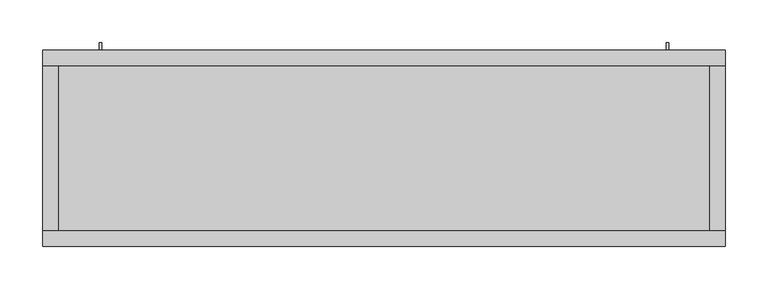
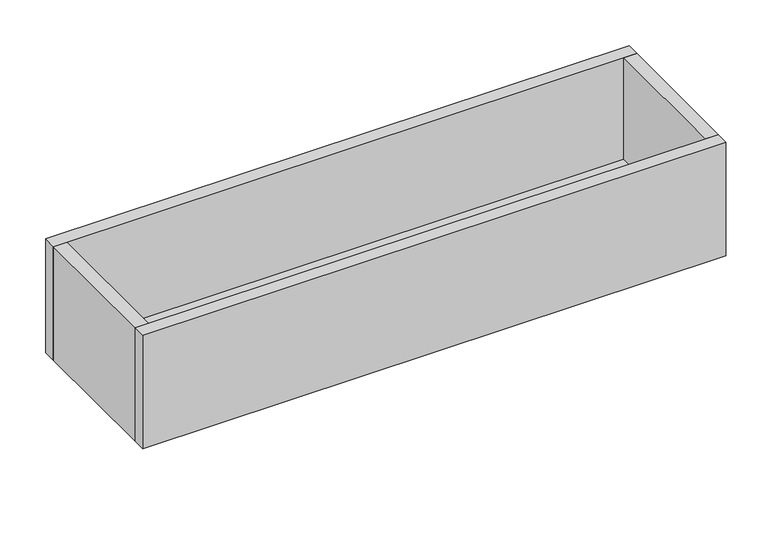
"""IFC4 building model written with IfcOpenShell, lengths in millimetres: furniture geometry, Mobiliário_Mobiliário de Escritório_Floreira - CTFL_Marelli : CTFL 08."""

from ifc_helpers import new_model, si_unit, point, frame, frame_2d, origin, origin_with_axes, place, context, project, spatial, polyline, circle_curve, trimmed, segment, composite_curve, outline, extrude, source, transform, mapped, element, save


def furniture_6d67d9ed(model_context):
    return source(origin(), model_context, "Body", "SweptSolid", [
        extrude(outline(polyline([(0.0, 230.0), (800.0, 230.0), (800.0, 212.0), (0.0, 212.0), (0.0, 230.0)])), origin_with_axes(), (0.0, 0.0, 1.0), 165.0),
        extrude(outline(composite_curve([segment(trimmed(circle_curve(frame_2d((88.0, 225.0)), 5.0), [point((88.0, 230.0))], [point((93.0, 225.0))], False, "CARTESIAN"), True, "CONTINUOUS"), segment(polyline([(93.0, 225.0), (93.0, 83.0)]), True, "CONTINUOUS"), segment(trimmed(circle_curve(frame_2d((88.0, 83.0)), 5.0), [point((93.0, 83.0))], [point((88.0, 78.0))], False, "CARTESIAN"), True, "CONTINUOUS"), segment(polyline([(88.0, 78.0), (48.0, 78.0)]), True, "CONTINUOUS"), segment(trimmed(circle_curve(frame_2d((48.0, 83.0)), 5.0), [point((48.0, 78.0))], [point((43.0, 83.0))], False, "CARTESIAN"), True, "CONTINUOUS"), segment(polyline([(43.0, 83.0), (43.0, 225.0)]), True, "CONTINUOUS"), segment(trimmed(circle_curve(frame_2d((48.0, 225.0)), 5.0), [point((43.0, 225.0))], [point((48.0, 230.0))], False, "CARTESIAN"), True, "CONTINUOUS"), segment(polyline([(48.0, 230.0), (88.0, 230.0)]), True, "CONTINUOUS")], self_intersect=False)), frame((0.0, 0.0, -3.0), z_axis=(0.0, 0.0, 1.0), x_axis=(1.0, 0.0, 0.0)), (0.0, 0.0, 1.0), 3.0),
        extrude(outline(composite_curve([segment(polyline([(712.0, 230.0), (752.0, 230.0)]), True, "CONTINUOUS"), segment(trimmed(circle_curve(frame_2d((752.0, 225.0)), 5.0), [point((752.0, 230.0))], [point((757.0, 225.0))], False, "CARTESIAN"), True, "CONTINUOUS"), segment(polyline([(757.0, 225.0), (757.0, 83.0)]), True, "CONTINUOUS"), segment(trimmed(circle_curve(frame_2d((752.0, 83.0)), 5.0), [point((757.0, 83.0))], [point((752.0, 78.0))], False, "CARTESIAN"), True, "CONTINUOUS"), segment(polyline([(752.0, 78.0), (712.0, 78.0)]), True, "CONTINUOUS"), segment(trimmed(circle_curve(frame_2d((712.0, 83.0)), 5.0), [point((712.0, 78.0))], [point((707.0, 83.0))], False, "CARTESIAN"), True, "CONTINUOUS"), segment(polyline([(707.0, 83.0), (707.0, 225.0)]), True, "CONTINUOUS"), segment(trimmed(circle_curve(frame_2d((712.0, 225.0)), 5.0), [point((707.0, 225.0))], [point((712.0, 230.0))], False, "CARTESIAN"), True, "CONTINUOUS")], self_intersect=False)), frame((0.0, 0.0, -3.0), z_axis=(0.0, 0.0, 1.0), x_axis=(1.0, 0.0, 0.0)), (0.0, 0.0, 1.0), 3.0),
        extrude(outline(composite_curve([segment(polyline([(230.0, -21.0), (239.0, -21.0), (239.0, -38.0), (232.0, -38.0), (231.005656, -29.0), (230.0, -29.0), (230.0, -61.0), (239.0, -61.0), (239.0, -78.0), (232.0, -78.0), (231.005656, -69.0), (230.0, -69.0), (230.0, -78.0), (224.0, -78.0)]), True, "CONTINUOUS"), segment(trimmed(circle_curve(frame_2d((224.0, -73.9980971)), 4.0019029), [point((224.0, -78.0))], [point((219.9980971, -73.9980971))], False, "CARTESIAN"), True, "CONTINUOUS"), segment(trimmed(circle_curve(frame_2d((137.5, -95.1720048)), 85.1720048), [point((219.9980971, -73.9980971))], [point((137.5, -10.0))], True, "CARTESIAN"), True, "CONTINUOUS"), segment(trimmed(circle_curve(frame_2d((137.5, -6.5)), 3.5), [point((137.5, -10.0))], [point((134.0, -6.5))], False, "CARTESIAN"), True, "CONTINUOUS"), segment(polyline([(134.0, -6.5), (134.0, -3.0), (230.0, -3.0), (230.0, -21.0)]), True, "CONTINUOUS")], self_intersect=False)), frame((66.5, 0.0, 0.0), z_axis=(1.0, 0.0, 0.0), x_axis=(0.0, 1.0, 0.0)), (0.0, 0.0, 1.0), 3.0),
        extrude(outline(composite_curve([segment(polyline([(230.0, -21.0), (239.0, -21.0), (239.0, -38.0), (232.0, -38.0), (231.005656, -29.0), (230.0, -29.0), (230.0, -61.0), (239.0, -61.0), (239.0, -78.0), (232.0, -78.0), (231.005656, -69.0), (230.0, -69.0), (230.0, -78.0), (224.0, -78.0)]), True, "CONTINUOUS"), segment(trimmed(circle_curve(frame_2d((224.0, -73.9980971)), 4.0019029), [point((224.0, -78.0))], [point((219.9980971, -73.9980971))], False, "CARTESIAN"), True, "CONTINUOUS"), segment(trimmed(circle_curve(frame_2d((137.5, -95.1720048)), 85.1720048), [point((219.9980971, -73.9980971))], [point((137.5, -10.0))], True, "CARTESIAN"), True, "CONTINUOUS"), segment(trimmed(circle_curve(frame_2d((137.5, -6.5)), 3.5), [point((137.5, -10.0))], [point((134.0, -6.5))], False, "CARTESIAN"), True, "CONTINUOUS"), segment(polyline([(134.0, -6.5), (134.0, -3.0), (230.0, -3.0), (230.0, -21.0)]), True, "CONTINUOUS")], self_intersect=False)), frame((730.5, 0.0, 0.0), z_axis=(1.0, 0.0, 0.0), x_axis=(0.0, 1.0, 0.0)), (0.0, 0.0, 1.0), 3.0),
        extrude(outline(polyline([(0.0, 18.0), (800.0, 18.0), (800.0, 0.0), (0.0, 0.0), (0.0, 18.0)])), origin_with_axes(), (0.0, 0.0, 1.0), 165.0),
        extrude(outline(polyline([(0.0, 212.0), (18.0, 212.0), (18.0, 18.0), (0.0, 18.0), (0.0, 212.0)])), origin_with_axes(), (0.0, 0.0, 1.0), 165.0),
        extrude(outline(polyline([(800.0, 212.0), (800.0, 18.0), (782.0, 18.0), (782.0, 212.0), (800.0, 212.0)])), origin_with_axes(), (0.0, 0.0, 1.0), 165.0),
        extrude(outline(polyline([(18.0, 212.0), (782.0, 212.0), (782.0, 18.0), (18.0, 18.0), (18.0, 212.0)])), origin_with_axes(), (0.0, 0.0, 1.0), 18.0),
    ])


if __name__ == "__main__":
    model = new_model("IFC4")
    model_context = context("Model", 3, world=origin())
    ifc_project = project(units=[si_unit("LENGTHUNIT", "METRE", prefix="MILLI")], contexts=[model_context])
    site = spatial("IfcSite", under=ifc_project)
    building = spatial("IfcBuilding", under=site)
    placement = place(None, origin())
    furniture_shape = furniture_6d67d9ed(model_context)
    element("IfcFurniture", 1, ObjectType="Mobiliário_Mobiliário de Escritório_Floreira - CTFL_Marelli : CTFL 08", at=placement, inside=building, context=model_context, shape_type="MappedRepresentation", body=[
        mapped(furniture_shape, transform((0.0, 0.0, 0.0), x_axis=(1.0, 0.0, 0.0), y_axis=(0.0, 1.0, 0.0), z_axis=(0.0, 0.0, 1.0))),
    ])
    save(model, "model.ifc")
